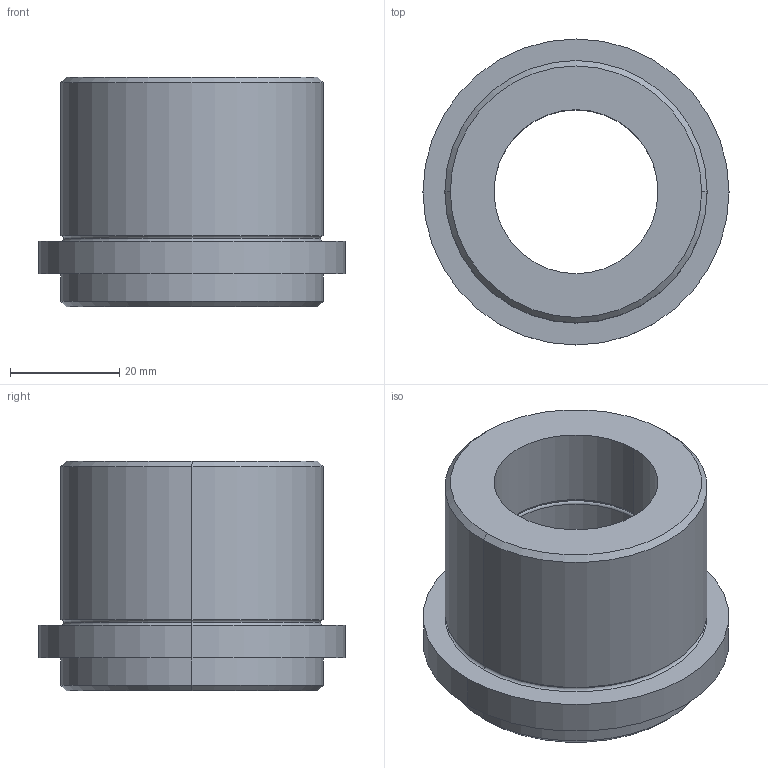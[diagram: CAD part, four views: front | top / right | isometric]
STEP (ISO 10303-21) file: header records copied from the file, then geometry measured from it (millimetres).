
FILE_DESCRIPTION (( 'STEP AP214' ), '1' );
FILE_NAME ('Casquillo SB500-30-42.STEP', '2018-11-26T12:57:21', ( '' ), ( '' ), 'SwSTEP 2.0', 'SolidWorks 2018', '' );
FILE_SCHEMA (( 'AUTOMOTIVE_DESIGN' ));
Length unit declared in the file: millimetre
Products named in the file (1): Casquillo SB500-30-42
Bounding box: 56 x 56 x 42 mm (x, y, z)
Volume: 50006.3 mm3; surface area: 13969.8 mm2
Topology: 1 solids, 1 shells, 32 faces, 64 edges, 36 vertices
Faces by surface type: torus 12, cylinder 12, cone 4, plane 4
Entity records: 874 total; most frequent: DIRECTION 178, CARTESIAN_POINT 133, ORIENTED_EDGE 128, AXIS2_PLACEMENT_3D 81, EDGE_CURVE 64, CIRCLE 48, VERTEX_POINT 36, EDGE_LOOP 36
